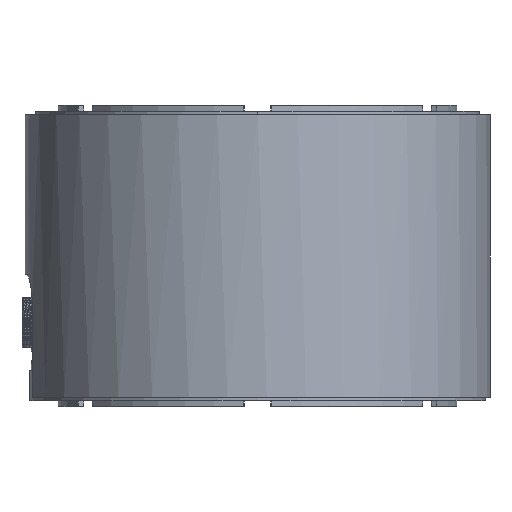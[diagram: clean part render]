
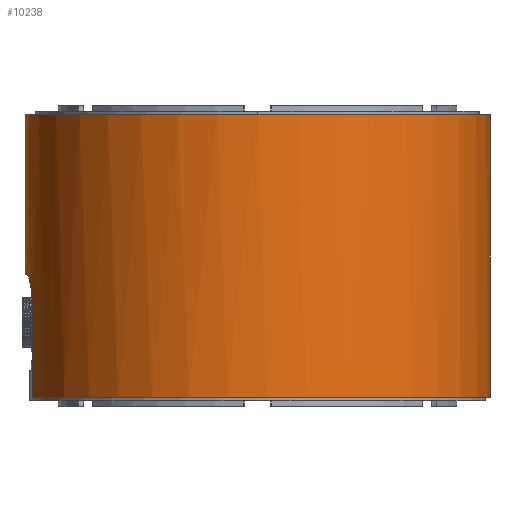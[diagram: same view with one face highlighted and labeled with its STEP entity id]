
A CAD part, left-side view. The second image highlights one B-rep face of the part: STEP entity #10238.
In plain terms, the highlighted cylindrical face has radius 77 mm (diameter 154 mm), a partial arc.
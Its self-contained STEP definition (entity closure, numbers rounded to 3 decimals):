
#1082 = CARTESIAN_POINT ( 'NONE',  ( -11.266, 40.745, -76.172 ) ) ;
#5451 = DIRECTION ( 'NONE',  ( 0., 1., 0. ) ) ;
#6843 = LINE ( 'NONE', #38604, #30152 ) ;
#6869 = VERTEX_POINT ( 'NONE', #96585 ) ;
#6956 = ORIENTED_EDGE ( 'NONE', *, *, #82384, .T. ) ;
#7012 = VERTEX_POINT ( 'NONE', #24790 ) ;
#8223 = CARTESIAN_POINT ( 'NONE',  ( -10.31, 40.935, -76.309 ) ) ;
#9244 = CARTESIAN_POINT ( 'NONE',  ( -16.927, 37.132, -75.117 ) ) ;
#10238 = ADVANCED_FACE ( 'NONE', ( #31099 ), #42114, .T. ) ;
#13721 = CARTESIAN_POINT ( 'NONE',  ( 0., 0.25, 0. ) ) ;
#14119 = EDGE_CURVE ( 'NONE', #6869, #31524, #98846, .T. ) ;
#16428 = CARTESIAN_POINT ( 'NONE',  ( -16.513, 37.632, -75.21 ) ) ;
#16998 = LINE ( 'NONE', #44888, #34235 ) ;
#17450 = CARTESIAN_POINT ( 'NONE',  ( -19., 31., -74.619 ) ) ;
#19001 = EDGE_LOOP ( 'NONE', ( #83197, #6956, #64777, #68960, #55423, #51247, #61966 ) ) ;
#21268 = CARTESIAN_POINT ( 'NONE',  ( 0., 93.75, -77. ) ) ;
#21592 = DIRECTION ( 'NONE',  ( 0., 0., 1. ) ) ;
#22619 = DIRECTION ( 'NONE',  ( 0., 1., 0. ) ) ;
#23763 = EDGE_CURVE ( 'NONE', #7012, #66780, #50669, .T. ) ;
#24447 = EDGE_CURVE ( 'NONE', #66780, #6869, #6843, .T. ) ;
#24790 = CARTESIAN_POINT ( 'NONE',  ( -9., 41., -76.472 ) ) ;
#26872 = EDGE_CURVE ( 'NONE', #31524, #91006, #50663, .T. ) ;
#30152 = VECTOR ( 'NONE', #93067, 1000. ) ;
#30219 = CARTESIAN_POINT ( 'NONE',  ( 0., 41., 0. ) ) ;
#31099 = FACE_OUTER_BOUND ( 'NONE', #19001, .T. ) ;
#31524 = VERTEX_POINT ( 'NONE', #55878 ) ;
#31834 = EDGE_CURVE ( 'NONE', #86324, #61466, #16998, .T. ) ;
#32228 = CARTESIAN_POINT ( 'NONE',  ( -17.648, 36.032, -74.95 ) ) ;
#32560 = CARTESIAN_POINT ( 'NONE',  ( -11.582, 40.666, -76.125 ) ) ;
#33579 = CARTESIAN_POINT ( 'NONE',  ( -19., 31.666, -74.619 ) ) ;
#34235 = VECTOR ( 'NONE', #82390, 1000. ) ;
#35115 = CIRCLE ( 'NONE', #61933, 77. ) ;
#35560 = AXIS2_PLACEMENT_3D ( 'NONE', #85601, #94737, #70252 ) ;
#38604 = CARTESIAN_POINT ( 'NONE',  ( -19., 55., -74.619 ) ) ;
#39763 = CARTESIAN_POINT ( 'NONE',  ( -12.519, 40.366, -75.976 ) ) ;
#40099 = CARTESIAN_POINT ( 'NONE',  ( -18.1, 35.159, -74.843 ) ) ;
#42114 = CYLINDRICAL_SURFACE ( 'NONE', #35560, 77. ) ;
#43416 = CIRCLE ( 'NONE', #69509, 77. ) ;
#44888 = CARTESIAN_POINT ( 'NONE',  ( 0., 55., -77. ) ) ;
#45562 = CARTESIAN_POINT ( 'NONE',  ( 0., 93.75, 0. ) ) ;
#45614 = DIRECTION ( 'NONE',  ( 0., 0., 1. ) ) ;
#46884 = AXIS2_PLACEMENT_3D ( 'NONE', #13721, #68394, #21592 ) ;
#50663 = LINE ( 'NONE', #90093, #89627 ) ;
#50669 = B_SPLINE_CURVE_WITH_KNOTS ( 'NONE', 3,
 ( #56115, #55775, #8223, #1082, #32560, #62943, #39763, #94194, #94878, #55442, #63284, #16428, #9244, #78934, #32228, #86757, #40099, #73423, #64975, #57101, #33579, #17450 ),
 .UNSPECIFIED., .F., .F.,
 ( 4, 2, 2, 2, 2, 2, 2, 2, 2, 2, 4 ),
 ( 0., 0.002, 0.003, 0.004, 0.006, 0.008, 0.01, 0.011, 0.012, 0.014, 0.016 ),
 .UNSPECIFIED. ) ;
#51247 = ORIENTED_EDGE ( 'NONE', *, *, #26872, .T. ) ;
#55423 = ORIENTED_EDGE ( 'NONE', *, *, #14119, .T. ) ;
#55442 = CARTESIAN_POINT ( 'NONE',  ( -15.078, 38.968, -75.511 ) ) ;
#55775 = CARTESIAN_POINT ( 'NONE',  ( -9.661, 41., -76.394 ) ) ;
#55878 = CARTESIAN_POINT ( 'NONE',  ( 0., 0.25, 77. ) ) ;
#56115 = CARTESIAN_POINT ( 'NONE',  ( -9., 41., -76.472 ) ) ;
#57101 = CARTESIAN_POINT ( 'NONE',  ( -18.934, 32.324, -74.636 ) ) ;
#61466 = VERTEX_POINT ( 'NONE', #21268 ) ;
#61933 = AXIS2_PLACEMENT_3D ( 'NONE', #30219, #22619, #45614 ) ;
#61966 = ORIENTED_EDGE ( 'NONE', *, *, #90262, .T. ) ;
#62943 = CARTESIAN_POINT ( 'NONE',  ( -12.208, 40.477, -76.027 ) ) ;
#63284 = CARTESIAN_POINT ( 'NONE',  ( -15.591, 38.549, -75.407 ) ) ;
#64777 = ORIENTED_EDGE ( 'NONE', *, *, #23763, .T. ) ;
#64975 = CARTESIAN_POINT ( 'NONE',  ( -18.672, 33.627, -74.702 ) ) ;
#66780 = VERTEX_POINT ( 'NONE', #86312 ) ;
#68394 = DIRECTION ( 'NONE',  ( 0., 1., 0. ) ) ;
#68960 = ORIENTED_EDGE ( 'NONE', *, *, #24447, .T. ) ;
#69509 = AXIS2_PLACEMENT_3D ( 'NONE', #45562, #99978, #75189 ) ;
#70252 = DIRECTION ( 'NONE',  ( 0., 0., 1. ) ) ;
#73423 = CARTESIAN_POINT ( 'NONE',  ( -18.478, 34.255, -74.751 ) ) ;
#75189 = DIRECTION ( 'NONE',  ( 0., 0., -1. ) ) ;
#78934 = CARTESIAN_POINT ( 'NONE',  ( -17.477, 36.316, -74.991 ) ) ;
#82384 = EDGE_CURVE ( 'NONE', #86324, #7012, #35115, .T. ) ;
#82390 = DIRECTION ( 'NONE',  ( 0., 1., 0. ) ) ;
#83197 = ORIENTED_EDGE ( 'NONE', *, *, #31834, .F. ) ;
#85601 = CARTESIAN_POINT ( 'NONE',  ( 0., 55., 0. ) ) ;
#86312 = CARTESIAN_POINT ( 'NONE',  ( -19., 31., -74.619 ) ) ;
#86324 = VERTEX_POINT ( 'NONE', #97452 ) ;
#86757 = CARTESIAN_POINT ( 'NONE',  ( -17.959, 35.454, -74.876 ) ) ;
#88282 = CARTESIAN_POINT ( 'NONE',  ( 0., 93.75, 77. ) ) ;
#89627 = VECTOR ( 'NONE', #5451, 1000. ) ;
#90093 = CARTESIAN_POINT ( 'NONE',  ( 0., 55., 77. ) ) ;
#90262 = EDGE_CURVE ( 'NONE', #91006, #61466, #43416, .T. ) ;
#91006 = VERTEX_POINT ( 'NONE', #88282 ) ;
#93067 = DIRECTION ( 'NONE',  ( 0., -1., 0. ) ) ;
#94194 = CARTESIAN_POINT ( 'NONE',  ( -13.423, 39.992, -75.823 ) ) ;
#94737 = DIRECTION ( 'NONE',  ( 0., 1., 0. ) ) ;
#94878 = CARTESIAN_POINT ( 'NONE',  ( -13.995, 39.687, -75.719 ) ) ;
#96585 = CARTESIAN_POINT ( 'NONE',  ( -19., 0.25, -74.619 ) ) ;
#97452 = CARTESIAN_POINT ( 'NONE',  ( 0., 41., -77. ) ) ;
#98846 = CIRCLE ( 'NONE', #46884, 77. ) ;
#99978 = DIRECTION ( 'NONE',  ( 0., -1., 0. ) ) ;
